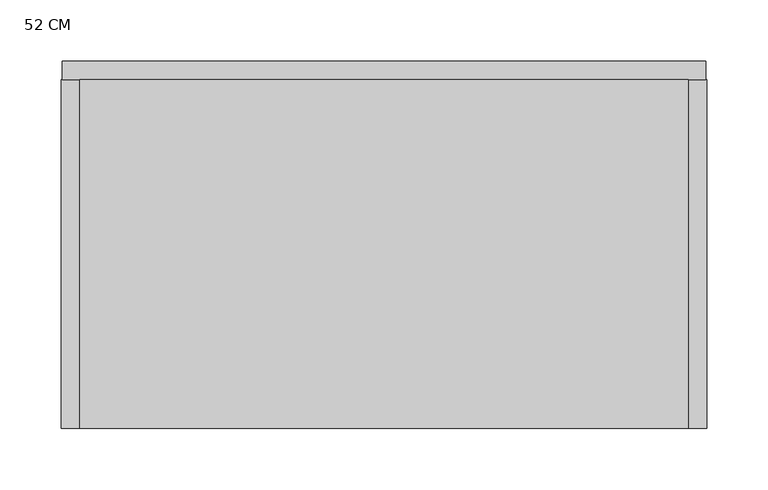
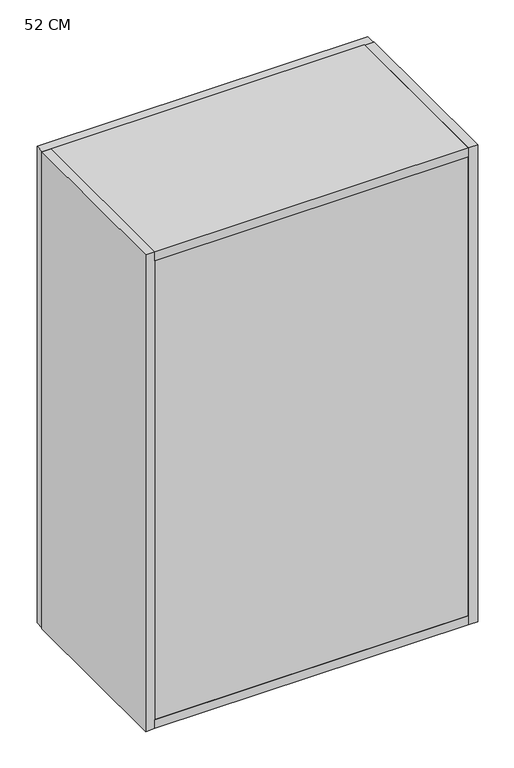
"""IFC4 building model written with IfcOpenShell, lengths in millimetres: furniture geometry, Mueble superior 1 puertas : 52 CM."""

from ifc_helpers import new_model, si_unit, frame, origin, place, context, project, spatial, polyline, outline, extrude, source, transform, mapped, element, save


def furniture_52_cm_ab3bc9a9(model_context):
    return source(origin(), model_context, "Body", "SweptSolid", [
        extrude(outline(polyline([(373.5, 365.0), (373.5, 80.0), (-123.5, 80.0), (-123.5, 365.0), (373.5, 365.0)])), frame((0.0, 0.0, 2385.0), z_axis=(0.0, 0.0, 1.0), x_axis=(1.0, 0.0, 0.0)), (0.0, 0.0, 1.0), 15.0),
        extrude(outline(polyline([(373.5, 365.0), (373.5, 80.0), (-123.5, 80.0), (-123.5, 365.0), (373.5, 365.0)])), frame((0.0, 0.0, 1600.0), z_axis=(0.0, 0.0, 1.0), x_axis=(1.0, 0.0, 0.0)), (0.0, 0.0, 1.0), 15.0),
        extrude(outline(polyline([(387.5, 365.0), (-137.5, 365.0), (-137.5, 380.0), (387.5, 380.0), (387.5, 365.0)])), frame((0.0, 0.0, 1600.0), z_axis=(0.0, 0.0, 1.0), x_axis=(1.0, 0.0, 0.0)), (0.0, 0.0, 1.0), 800.0),
        extrude(outline(polyline([(-123.5, 365.0), (-123.5, 80.0), (-138.5, 80.0), (-138.5, 365.0), (-123.5, 365.0)])), frame((0.0, 0.0, 1600.0), z_axis=(0.0, 0.0, 1.0), x_axis=(1.0, 0.0, 0.0)), (0.0, 0.0, 1.0), 800.0),
        extrude(outline(polyline([(373.5, 365.0), (388.5, 365.0), (388.5, 80.0), (373.5, 80.0), (373.5, 365.0)])), frame((0.0, 0.0, 1600.0), z_axis=(0.0, 0.0, 1.0), x_axis=(1.0, 0.0, 0.0)), (0.0, 0.0, 1.0), 800.0),
        extrude(outline(polyline([(373.5, 80.0), (-123.5, 80.0), (-123.5, 100.0), (373.5, 100.0), (373.5, 80.0)])), frame((0.0, 0.0, 1615.0), z_axis=(0.0, 0.0, 1.0), x_axis=(1.0, 0.0, 0.0)), (0.0, 0.0, 1.0), 770.0),
    ])


if __name__ == "__main__":
    model = new_model("IFC4")
    model_context = context("Model", 3, world=origin())
    ifc_project = project(units=[si_unit("LENGTHUNIT", "METRE", prefix="MILLI")], contexts=[model_context])
    site = spatial("IfcSite", under=ifc_project)
    building = spatial("IfcBuilding", under=site)
    placement = place(None, origin())
    furniture_52_cm_shape = furniture_52_cm_ab3bc9a9(model_context)
    element("IfcFurniture", 1, ObjectType="Mueble superior 1 puertas : 52 CM", at=placement, inside=building, context=model_context, shape_type="MappedRepresentation", body=[
        mapped(furniture_52_cm_shape, transform((0.0, 0.0, 0.0), x_axis=(1.0, 0.0, 0.0), y_axis=(0.0, 1.0, 0.0), z_axis=(0.0, 0.0, 1.0))),
    ])
    save(model, "model.ifc")
